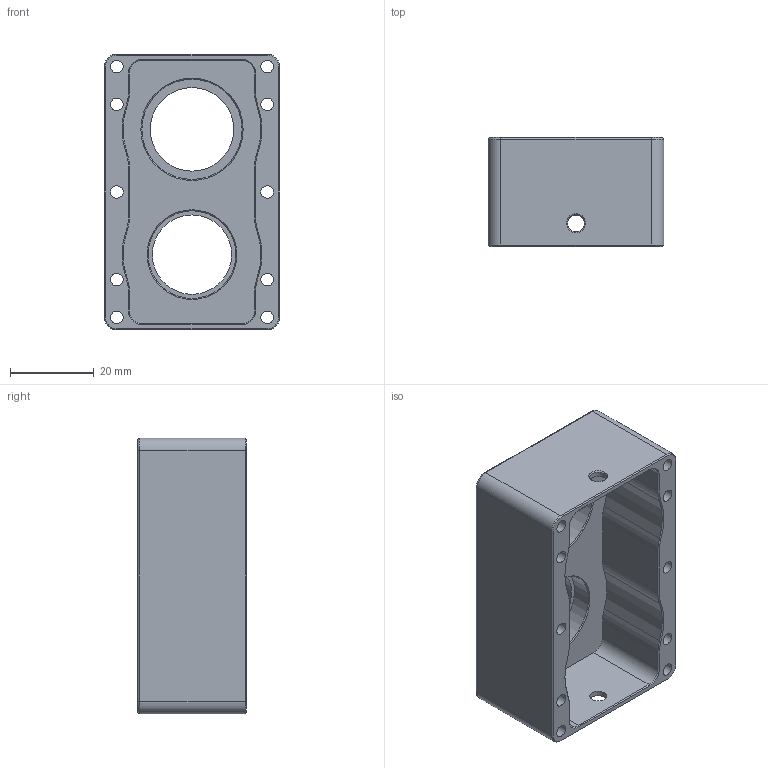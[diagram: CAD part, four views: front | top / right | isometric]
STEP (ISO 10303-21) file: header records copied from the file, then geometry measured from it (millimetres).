
FILE_DESCRIPTION(/* description */ (''),/* implementation_level */ '2;1');
FILE_NAME(/* name */ 'Linear Drive BEARING HOUSING .step',/* time_stamp */ '2026-10-23T15:39:56+05:30',/* author */ (''),/* organization */ (''),/* preprocessor_version */ 'ST-DEVELOPER v20.2',/* originating_system */ 'Autodesk Translation Framework v15.15.0.0',/* authorisation */ '');
FILE_SCHEMA (('AUTOMOTIVE_DESIGN { 1 0 10303 214 3 1 1 }'));
Length unit declared in the file: millimetre
Products named in the file (1): 2026-10-23-15-39-56-361
Bounding box: 42 x 26 x 66 mm (x, y, z)
Volume: 26288.3 mm3; surface area: 17212.3 mm2
Topology: 1 solids, 1 shells, 117 faces, 262 edges, 160 vertices
Faces by surface type: cylinder 50, plane 39, cone 24, torus 4
Full cylindrical faces by diameter (mm): 3 x10, 4 x2, 4.5 x10, 19 x1, 20 x1, 21 x1, 24 x1
Entity records: 3341 total; most frequent: DIRECTION 626, CARTESIAN_POINT 540, ORIENTED_EDGE 524, EDGE_CURVE 262, AXIS2_PLACEMENT_3D 246, VERTEX_POINT 160, EDGE_LOOP 158, LINE 134
